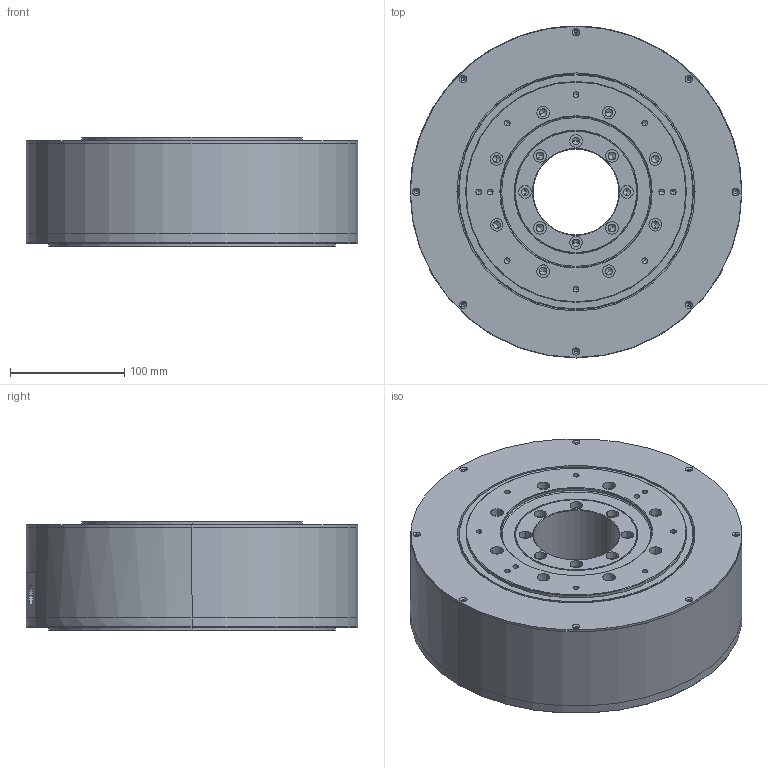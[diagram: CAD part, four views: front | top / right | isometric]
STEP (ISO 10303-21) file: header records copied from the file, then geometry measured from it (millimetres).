
FILE_DESCRIPTION((''),'2;1');
FILE_NAME('PM-DDE40D','2016-02-05T',('jb17719'),(''),'PRO/ENGINEER BY PARAMETRIC TECHNOLOGY CORPORATION, 2008070','PRO/ENGINEER BY PARAMETRIC TECHNOLOGY CORPORATION, 2008070','');
FILE_SCHEMA(('AUTOMOTIVE_DESIGN_CC2 { 1 2 10303 214 -1 1 5 2 }'));
Length unit declared in the file: millimetre
Products named in the file (1): PM-DDE40D
Bounding box: 290 x 290 x 95.4 mm (x, y, z)
Volume: 5487527 mm3; surface area: 409768.4 mm2
Topology: 1 solids, 1 shells, 371 faces, 854 edges, 467 vertices
Faces by surface type: cylinder 186, cone 140, plane 43, torus 2
Entity records: 10075 total; most frequent: DIRECTION 1888, CARTESIAN_POINT 1696, ORIENTED_EDGE 1496, AXIS2_PLACEMENT_3D 777, EDGE_CURVE 748, VERTEX_POINT 467, EDGE_LOOP 465, CIRCLE 406
